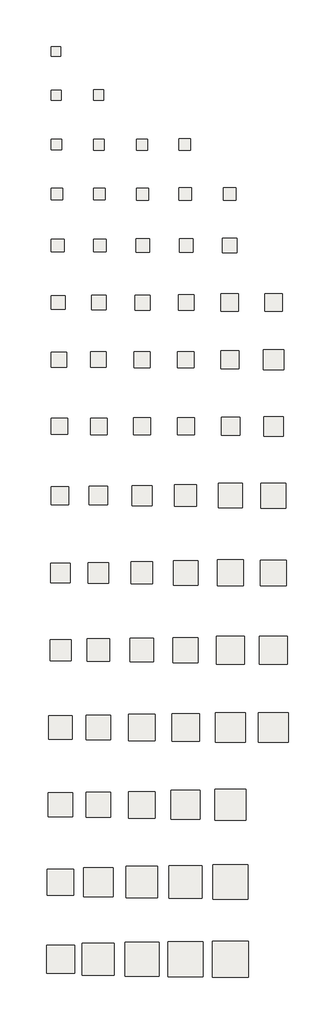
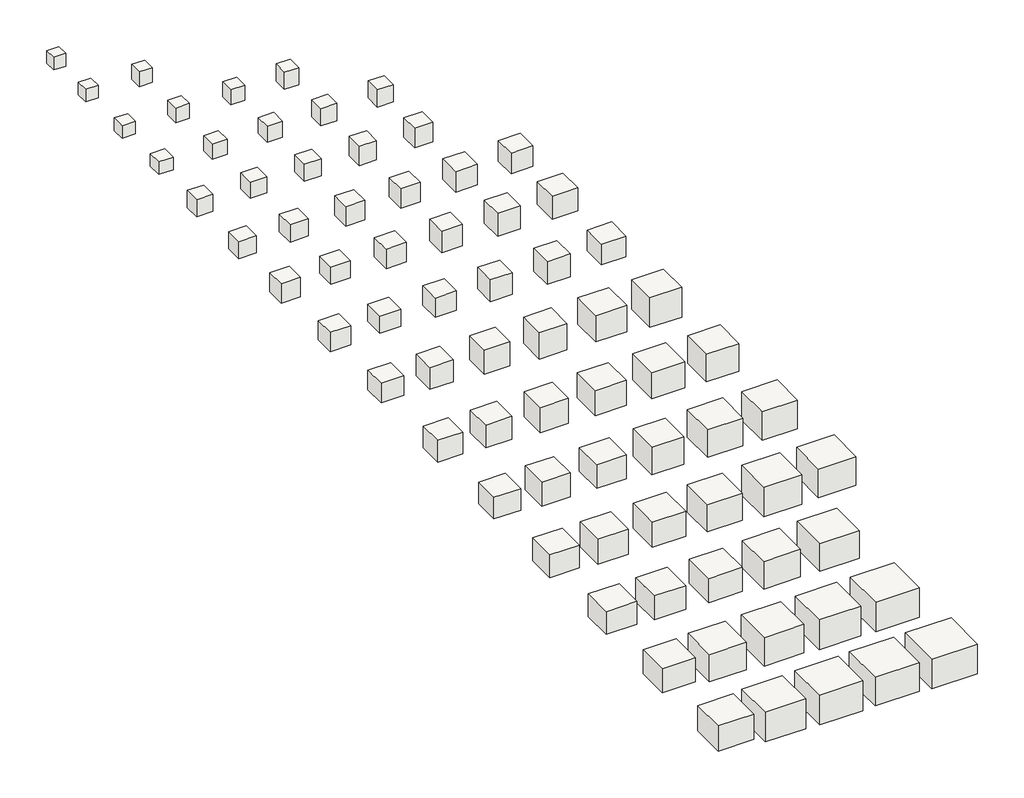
# One storey: 74 slabs.
"""IFC4 building model written with IfcOpenShell, lengths in millimetres."""

import ifcopenshell
import ifcopenshell.guid

model = None  # the IFC model being written
_history = None  # IfcOwnerHistory: only IFC2X3 demands one
_inside = {}  # id of a spatial element -> (the spatial element, [elements in it])
_under = {}  # id of a project, library or spatial element -> (it, [spatial elements below it])
_declared = {}  # id of a project -> (the project, [libraries it declares])
_typed = {}  # id of a type object -> (the type object, [elements of that type])
_made_of = {}  # id of a material, layer set ... -> (it, [elements and type objects made of it])


def new_model(schema):
    """Start an empty IFC model of exactly this schema.

    Asked for "IFC4X3", IfcOpenShell would pick the latest addendum, in which some entities
    have other attributes; the version numbers below select the first issue.
    IFC2X3 requires an IfcOwnerHistory on every rooted entity: one is made here for all.
    """
    global model, _history
    if schema == "IFC4X3":
        model = ifcopenshell.file(schema_version=(4, 3, 0, 0))
    else:
        model = ifcopenshell.file(schema=schema)
    _inside.clear()
    _under.clear()
    _declared.clear()
    _typed.clear()
    _made_of.clear()
    _history = None
    if model.schema == "IFC2X3":
        org = make("IfcOrganization", Name="unknown")
        user = make(
            "IfcPersonAndOrganization",
            ThePerson=make("IfcPerson", FamilyName="unknown"),
            TheOrganization=org,
        )
        app = make(
            "IfcApplication",
            ApplicationDeveloper=org,
            Version="unknown",
            ApplicationFullName="unknown",
            ApplicationIdentifier="unknown",
        )
        _history = make(
            "IfcOwnerHistory",
            OwningUser=user,
            OwningApplication=app,
            ChangeAction="ADDED",
            CreationDate=0,
        )
    return model


def make(cls, **values):
    """One entity of the class cls with the attributes given. An attribute that is None is left unset."""
    return model.create_entity(
        cls, **{name: value for name, value in values.items() if value is not None}
    )


def rooted(cls, **values):
    """An entity with a GlobalId (a new one), such as an element, a storey or a relation."""
    return make(cls, GlobalId=ifcopenshell.guid.new(), OwnerHistory=_history, **values)


def si_unit(unit_type, name, prefix=None):
    """IfcSIUnit, for example si_unit("LENGTHUNIT", "METRE", prefix="MILLI")."""
    return make("IfcSIUnit", UnitType=unit_type, Prefix=prefix, Name=name)


def assignment(units):
    """IfcUnitAssignment: the units of a project."""
    return None if units is None else make("IfcUnitAssignment", Units=units)


def point(xyz):
    """IfcCartesianPoint."""
    return None if xyz is None else make("IfcCartesianPoint", Coordinates=xyz)


def direction(xyz):
    """IfcDirection."""
    return None if xyz is None else make("IfcDirection", DirectionRatios=xyz)


def frame(location, z_axis=None, x_axis=None):
    """IfcAxis2Placement3D, a coordinate frame: its origin and axes. An axis left out is left unset."""
    return make(
        "IfcAxis2Placement3D",
        Location=point(location),
        Axis=direction(z_axis),
        RefDirection=direction(x_axis),
    )


def origin():
    """The frame at (0, 0, 0) with its axes left unset."""
    return frame((0.0, 0.0, 0.0))


def place(relative_to, where):
    """IfcLocalPlacement: puts the frame where relative to a parent placement (None: the world)."""
    return make(
        "IfcLocalPlacement", PlacementRelTo=relative_to, RelativePlacement=where
    )


def context(
    kind, dimensions, precision=None, world=None, true_north=None, identifier=None
):
    """IfcGeometricRepresentationContext, for example the 3D "Model" context."""
    return make(
        "IfcGeometricRepresentationContext",
        ContextIdentifier=identifier,
        ContextType=kind,
        CoordinateSpaceDimension=dimensions,
        Precision=precision,
        WorldCoordinateSystem=world,
        TrueNorth=true_north,
    )


def project(units=None, contexts=None):
    """IfcProject with its units and contexts."""
    return rooted(
        "IfcProject",
        Name="project",
        RepresentationContexts=contexts,
        UnitsInContext=assignment(units),
    )


def spatial(cls, under=None, at=None, **own):
    """A site, building, storey or space (cls), placed at a placement, below another one or the project."""
    s = rooted(cls, ObjectPlacement=at, **own)
    if under is not None:
        _under.setdefault(under.id(), (under, []))[1].append(s)
    return s


def polyline(points):
    """IfcPolyline through the points."""
    return make("IfcPolyline", Points=[point(p) for p in points])


def outline(outer, holes=None, kind="AREA"):
    """IfcArbitraryClosedProfileDef: a profile drawn as a closed curve; with holes, ...WithVoids."""
    if holes is None:
        return make("IfcArbitraryClosedProfileDef", ProfileType=kind, OuterCurve=outer)
    return make(
        "IfcArbitraryProfileDefWithVoids",
        ProfileType=kind,
        OuterCurve=outer,
        InnerCurves=holes,
    )


def extrude(swept, where, along, depth):
    """IfcExtrudedAreaSolid: the profile swept, set in the frame where, extruded along a direction by depth."""
    return make(
        "IfcExtrudedAreaSolid",
        SweptArea=swept,
        Position=where,
        ExtrudedDirection=direction(along),
        Depth=depth,
    )


def shape(context_of_items, identifier, shape_type, items):
    """IfcShapeRepresentation: the items that make up one representation, for example the "Body"."""
    return make(
        "IfcShapeRepresentation",
        ContextOfItems=context_of_items,
        RepresentationIdentifier=identifier,
        RepresentationType=shape_type,
        Items=items,
    )


def source(mapping_origin, context_of_items, identifier, shape_type, items):
    """IfcRepresentationMap: a shape defined once, which mapped items show again and again."""
    return make(
        "IfcRepresentationMap",
        MappingOrigin=mapping_origin,
        MappedRepresentation=shape(context_of_items, identifier, shape_type, items),
    )


def transform(
    local_origin,
    x_axis=None,
    y_axis=None,
    z_axis=None,
    scale=None,
    scale2=None,
    scale3=None,
    uniform=True,
):
    """IfcCartesianTransformationOperator3D, or its non-uniform kind. x_axis, y_axis, z_axis: its Axis1, 2, 3."""
    if uniform:
        return make(
            "IfcCartesianTransformationOperator3D",
            Axis1=direction(x_axis),
            Axis2=direction(y_axis),
            LocalOrigin=point(local_origin),
            Scale=scale,
            Axis3=direction(z_axis),
        )
    return make(
        "IfcCartesianTransformationOperator3DnonUniform",
        Axis1=direction(x_axis),
        Axis2=direction(y_axis),
        LocalOrigin=point(local_origin),
        Scale=scale,
        Axis3=direction(z_axis),
        Scale2=scale2,
        Scale3=scale3,
    )


def mapped(mapping_source, mapping_target):
    """IfcMappedItem: shows the shape of a source again, moved by a transform."""
    return make(
        "IfcMappedItem", MappingSource=mapping_source, MappingTarget=mapping_target
    )


def made_of(thing, what):
    """Note that an element or type object is made of a material, layer set ...; save() writes the relation."""
    if what is not None:
        _made_of.setdefault(what.id(), (what, []))[1].append(thing)
    return thing


def element(
    cls,
    number,
    at=None,
    inside=None,
    cuts=None,
    type_object=None,
    material=None,
    context=None,
    identifier="Body",
    shape_type=None,
    held_by="IfcProductDefinitionShape",
    body=None,
    shapes=None,
    **own,
):
    """One element of the class cls, such as IfcWall. Its Tag is "e" and its number.

    at: its placement. inside: the storey or other place that contains it. cuts: it is an
    opening in that element (IfcRelVoidsElement). A single representation is given by context,
    identifier, shape_type and body (its items); several are given by shapes. held_by: the class
    of the entity that holds the representations. save() writes the other relations.
    """
    e = rooted(cls, Tag="e%d" % number, ObjectPlacement=at, **own)
    if body is not None:
        shapes = [shape(context, identifier, shape_type, body)]
    if shapes is not None:
        e.Representation = make(held_by, Representations=shapes)
    if inside is not None:
        _inside.setdefault(inside.id(), (inside, []))[1].append(e)
    if cuts is not None:
        rooted(
            "IfcRelVoidsElement", RelatingBuildingElement=cuts, RelatedOpeningElement=e
        )
    if type_object is not None:
        _typed.setdefault(type_object.id(), (type_object, []))[1].append(e)
    return made_of(e, material)


def aggregate(whole, parts):
    """IfcRelAggregates: a whole, such as a stair, and the parts it consists of."""
    return rooted("IfcRelAggregates", RelatingObject=whole, RelatedObjects=parts)


def save(model, path):
    """Write the relations noted so far, then the file.

    IfcRelAggregates (storeys below a building ...), IfcRelContainedInSpatialStructure (elements
    in a storey), IfcRelDefinesByType, IfcRelAssociatesMaterial and IfcRelDeclares: one each for
    every whole, place, type object, material and project.
    """
    for whole, parts in _under.values():
        aggregate(whole, parts)
    for where, things in _inside.values():
        rooted(
            "IfcRelContainedInSpatialStructure",
            RelatedElements=things,
            RelatingStructure=where,
        )
    for kind, things in _typed.values():
        rooted("IfcRelDefinesByType", RelatedObjects=things, RelatingType=kind)
    for what, things in _made_of.values():
        rooted("IfcRelAssociatesMaterial", RelatedObjects=things, RelatingMaterial=what)
    for by, libraries in _declared.values():
        rooted("IfcRelDeclares", RelatingContext=by, RelatedDefinitions=libraries)
    model.write(path)


def sh151_05a4cf6c(model_context):
    return source(origin(), model_context, "Body", "SweptSolid", [
        extrude(outline(polyline([(250.0, 250.0), (250.0, -250.0), (-250.0, -250.0), (-250.0, 250.0), (250.0, 250.0)])), frame((0.0, 0.0, -550.0), z_axis=(0.0, 0.0, 1.0), x_axis=(1.0, 0.0, 0.0)), (0.0, 0.0, 1.0), 550.0),
    ])


def sh171_3b6ec63e(model_context):
    return source(origin(), model_context, "Body", "SweptSolid", [
        extrude(outline(polyline([(260.0, 260.0), (260.0, -260.0), (-260.0, -260.0), (-260.0, 260.0), (260.0, 260.0)])), frame((0.0, 0.0, -550.0), z_axis=(0.0, 0.0, 1.0), x_axis=(1.0, 0.0, 0.0)), (0.0, 0.0, 1.0), 550.0),
    ])


def sh172_2c039d42(model_context):
    return source(origin(), model_context, "Body", "SweptSolid", [
        extrude(outline(polyline([(270.0, 270.0), (270.0, -270.0), (-270.0, -270.0), (-270.0, 270.0), (270.0, 270.0)])), frame((0.0, 0.0, -650.0), z_axis=(0.0, 0.0, 1.0), x_axis=(1.0, 0.0, 0.0)), (0.0, 0.0, 1.0), 650.0),
    ])


def sh201_967e3658(model_context):
    return source(origin(), model_context, "Body", "SweptSolid", [
        extrude(outline(polyline([(275.0, 275.0), (275.0, -275.0), (-275.0, -275.0), (-275.0, 275.0), (275.0, 275.0)])), frame((0.0, 0.0, -550.0), z_axis=(0.0, 0.0, 1.0), x_axis=(1.0, 0.0, 0.0)), (0.0, 0.0, 1.0), 550.0),
    ])


def sh202_af07e2a0(model_context):
    return source(origin(), model_context, "Body", "SweptSolid", [
        extrude(outline(polyline([(285.0, 285.0), (285.0, -285.0), (-285.0, -285.0), (-285.0, 285.0), (285.0, 285.0)])), frame((0.0, 0.0, -650.0), z_axis=(0.0, 0.0, 1.0), x_axis=(1.0, 0.0, 0.0)), (0.0, 0.0, 1.0), 650.0),
    ])


def sh203_214d91b7(model_context):
    return source(origin(), model_context, "Body", "SweptSolid", [
        extrude(outline(polyline([(290.0, 290.0), (290.0, -290.0), (-290.0, -290.0), (-290.0, 290.0), (290.0, 290.0)])), frame((0.0, 0.0, -650.0), z_axis=(0.0, 0.0, 1.0), x_axis=(1.0, 0.0, 0.0)), (0.0, 0.0, 1.0), 650.0),
    ])


def sh204_f7182780(model_context):
    return source(origin(), model_context, "Body", "SweptSolid", [
        extrude(outline(polyline([(300.0, 300.0), (300.0, -300.0), (-300.0, -300.0), (-300.0, 300.0), (300.0, 300.0)])), frame((0.0, 0.0, -750.0), z_axis=(0.0, 0.0, 1.0), x_axis=(1.0, 0.0, 0.0)), (0.0, 0.0, 1.0), 750.0),
    ])


def sh251_bfb0af9b(model_context):
    return source(origin(), model_context, "Body", "SweptSolid", [
        extrude(outline(polyline([(300.0, 300.0), (300.0, -300.0), (-300.0, -300.0), (-300.0, 300.0), (300.0, 300.0)])), frame((0.0, 0.0, -550.0), z_axis=(0.0, 0.0, 1.0), x_axis=(1.0, 0.0, 0.0)), (0.0, 0.0, 1.0), 550.0),
    ])


def sh252_e3db69f3(model_context):
    return source(origin(), model_context, "Body", "SweptSolid", [
        extrude(outline(polyline([(310.0, 310.0), (310.0, -310.0), (-310.0, -310.0), (-310.0, 310.0), (310.0, 310.0)])), frame((0.0, 0.0, -650.0), z_axis=(0.0, 0.0, 1.0), x_axis=(1.0, 0.0, 0.0)), (0.0, 0.0, 1.0), 650.0),
    ])


def sh253_e0c43a48(model_context):
    return source(origin(), model_context, "Body", "SweptSolid", [
        extrude(outline(polyline([(315.0, 315.0), (315.0, -315.0), (-315.0, -315.0), (-315.0, 315.0), (315.0, 315.0)])), frame((0.0, 0.0, -700.0), z_axis=(0.0, 0.0, 1.0), x_axis=(1.0, 0.0, 0.0)), (0.0, 0.0, 1.0), 700.0),
    ])


def sh254_d4b0e25d(model_context):
    return source(origin(), model_context, "Body", "SweptSolid", [
        extrude(outline(polyline([(325.0, 325.0), (325.0, -325.0), (-325.0, -325.0), (-325.0, 325.0), (325.0, 325.0)])), frame((0.0, 0.0, -750.0), z_axis=(0.0, 0.0, 1.0), x_axis=(1.0, 0.0, 0.0)), (0.0, 0.0, 1.0), 750.0),
    ])


def sh255_3842edd7(model_context):
    return source(origin(), model_context, "Body", "SweptSolid", [
        extrude(outline(polyline([(330.0, 330.0), (330.0, -330.0), (-330.0, -330.0), (-330.0, 330.0), (330.0, 330.0)])), frame((0.0, 0.0, -750.0), z_axis=(0.0, 0.0, 1.0), x_axis=(1.0, 0.0, 0.0)), (0.0, 0.0, 1.0), 750.0),
    ])


def sh301_2fa1b9bb(model_context):
    return source(origin(), model_context, "Body", "SweptSolid", [
        extrude(outline(polyline([(335.0, 335.0), (335.0, -335.0), (-335.0, -335.0), (-335.0, 335.0), (335.0, 335.0)])), frame((0.0, 0.0, -750.0), z_axis=(0.0, 0.0, 1.0), x_axis=(1.0, 0.0, 0.0)), (0.0, 0.0, 1.0), 750.0),
    ])


def sh302_2cdbd7e4(model_context):
    return source(origin(), model_context, "Body", "SweptSolid", [
        extrude(outline(polyline([(340.0, 340.0), (340.0, -340.0), (-340.0, -340.0), (-340.0, 340.0), (340.0, 340.0)])), frame((0.0, 0.0, -700.0), z_axis=(0.0, 0.0, 1.0), x_axis=(1.0, 0.0, 0.0)), (0.0, 0.0, 1.0), 700.0),
    ])


def sh303_fd9c4a22(model_context):
    return source(origin(), model_context, "Body", "SweptSolid", [
        extrude(outline(polyline([(350.0, 350.0), (350.0, -350.0), (-350.0, -350.0), (-350.0, 350.0), (350.0, 350.0)])), frame((0.0, 0.0, -750.0), z_axis=(0.0, 0.0, 1.0), x_axis=(1.0, 0.0, 0.0)), (0.0, 0.0, 1.0), 750.0),
    ])


def sh304_efbd32dc(model_context):
    return source(origin(), model_context, "Body", "SweptSolid", [
        extrude(outline(polyline([(355.0, 355.0), (355.0, -355.0), (-355.0, -355.0), (-355.0, 355.0), (355.0, 355.0)])), frame((0.0, 0.0, -850.0), z_axis=(0.0, 0.0, 1.0), x_axis=(1.0, 0.0, 0.0)), (0.0, 0.0, 1.0), 850.0),
    ])


def sh305_3eef8231(model_context):
    return source(origin(), model_context, "Body", "SweptSolid", [
        extrude(outline(polyline([(380.0, 380.0), (380.0, -380.0), (-380.0, -380.0), (-380.0, 380.0), (380.0, 380.0)])), frame((0.0, 0.0, -850.0), z_axis=(0.0, 0.0, 1.0), x_axis=(1.0, 0.0, 0.0)), (0.0, 0.0, 1.0), 850.0),
    ])


def sh351_a3a2fe4a(model_context):
    return source(origin(), model_context, "Body", "SweptSolid", [
        extrude(outline(polyline([(360.0, 360.0), (360.0, -360.0), (-360.0, -360.0), (-360.0, 360.0), (360.0, 360.0)])), frame((0.0, 0.0, -750.0), z_axis=(0.0, 0.0, 1.0), x_axis=(1.0, 0.0, 0.0)), (0.0, 0.0, 1.0), 750.0),
    ])


def sh352_ad2891c9(model_context):
    return source(origin(), model_context, "Body", "SweptSolid", [
        extrude(outline(polyline([(380.0, 380.0), (380.0, -380.0), (-380.0, -380.0), (-380.0, 380.0), (380.0, 380.0)])), frame((0.0, 0.0, -750.0), z_axis=(0.0, 0.0, 1.0), x_axis=(1.0, 0.0, 0.0)), (0.0, 0.0, 1.0), 750.0),
    ])


def sh353_d71c6902(model_context):
    return source(origin(), model_context, "Body", "SweptSolid", [
        extrude(outline(polyline([(390.0, 390.0), (390.0, -390.0), (-390.0, -390.0), (-390.0, 390.0), (390.0, 390.0)])), frame((0.0, 0.0, -850.0), z_axis=(0.0, 0.0, 1.0), x_axis=(1.0, 0.0, 0.0)), (0.0, 0.0, 1.0), 850.0),
    ])


def sh354_d327f54e(model_context):
    return source(origin(), model_context, "Body", "SweptSolid", [
        extrude(outline(polyline([(405.0, 405.0), (405.0, -405.0), (-405.0, -405.0), (-405.0, 405.0), (405.0, 405.0)])), frame((0.0, 0.0, -850.0), z_axis=(0.0, 0.0, 1.0), x_axis=(1.0, 0.0, 0.0)), (0.0, 0.0, 1.0), 850.0),
    ])


def sh355_837e37f4(model_context):
    return source(origin(), model_context, "Body", "SweptSolid", [
        extrude(outline(polyline([(455.0, 455.0), (455.0, -455.0), (-455.0, -455.0), (-455.0, 455.0), (455.0, 455.0)])), frame((0.0, 0.0, -900.0), z_axis=(0.0, 0.0, 1.0), x_axis=(1.0, 0.0, 0.0)), (0.0, 0.0, 1.0), 900.0),
    ])


def sh402_118434c7(model_context):
    return source(origin(), model_context, "Body", "SweptSolid", [
        extrude(outline(polyline([(405.0, 405.0), (405.0, -405.0), (-405.0, -405.0), (-405.0, 405.0), (405.0, 405.0)])), frame((0.0, 0.0, -750.0), z_axis=(0.0, 0.0, 1.0), x_axis=(1.0, 0.0, 0.0)), (0.0, 0.0, 1.0), 750.0),
    ])


def sh403_8080ce22(model_context):
    return source(origin(), model_context, "Body", "SweptSolid", [
        extrude(outline(polyline([(420.0, 420.0), (420.0, -420.0), (-420.0, -420.0), (-420.0, 420.0), (420.0, 420.0)])), frame((0.0, 0.0, -850.0), z_axis=(0.0, 0.0, 1.0), x_axis=(1.0, 0.0, 0.0)), (0.0, 0.0, 1.0), 850.0),
    ])


def sh404_aaa08fc3(model_context):
    return source(origin(), model_context, "Body", "SweptSolid", [
        extrude(outline(polyline([(430.0, 430.0), (430.0, -430.0), (-430.0, -430.0), (-430.0, 430.0), (430.0, 430.0)])), frame((0.0, 0.0, -950.0), z_axis=(0.0, 0.0, 1.0), x_axis=(1.0, 0.0, 0.0)), (0.0, 0.0, 1.0), 950.0),
    ])


def sh451_d6b55bf2(model_context):
    return source(origin(), model_context, "Body", "SweptSolid", [
        extrude(outline(polyline([(425.0, 425.0), (425.0, -425.0), (-425.0, -425.0), (-425.0, 425.0), (425.0, 425.0)])), frame((0.0, 0.0, -850.0), z_axis=(0.0, 0.0, 1.0), x_axis=(1.0, 0.0, 0.0)), (0.0, 0.0, 1.0), 850.0),
    ])


def sh452_b81ecc12(model_context):
    return source(origin(), model_context, "Body", "SweptSolid", [
        extrude(outline(polyline([(435.0, 435.0), (435.0, -435.0), (-435.0, -435.0), (-435.0, 435.0), (435.0, 435.0)])), frame((0.0, 0.0, -750.0), z_axis=(0.0, 0.0, 1.0), x_axis=(1.0, 0.0, 0.0)), (0.0, 0.0, 1.0), 750.0),
    ])


def sh453_2a0722a9(model_context):
    return source(origin(), model_context, "Body", "SweptSolid", [
        extrude(outline(polyline([(445.0, 445.0), (445.0, -445.0), (-445.0, -445.0), (-445.0, 445.0), (445.0, 445.0)])), frame((0.0, 0.0, -850.0), z_axis=(0.0, 0.0, 1.0), x_axis=(1.0, 0.0, 0.0)), (0.0, 0.0, 1.0), 850.0),
    ])


def sh454_7828ca22(model_context):
    return source(origin(), model_context, "Body", "SweptSolid", [
        extrude(outline(polyline([(455.0, 455.0), (455.0, -455.0), (-455.0, -455.0), (-455.0, 455.0), (455.0, 455.0)])), frame((0.0, 0.0, -950.0), z_axis=(0.0, 0.0, 1.0), x_axis=(1.0, 0.0, 0.0)), (0.0, 0.0, 1.0), 950.0),
    ])


def sh455_6269cbd8(model_context):
    return source(origin(), model_context, "Body", "SweptSolid", [
        extrude(outline(polyline([(480.0, 480.0), (480.0, -480.0), (-480.0, -480.0), (-480.0, 480.0), (480.0, 480.0)])), frame((0.0, 0.0, -1000.0), z_axis=(0.0, 0.0, 1.0), x_axis=(1.0, 0.0, 0.0)), (0.0, 0.0, 1.0), 1000.0),
    ])


def sh456_0ef26143(model_context):
    return source(origin(), model_context, "Body", "SweptSolid", [
        extrude(outline(polyline([(510.0, 510.0), (510.0, -510.0), (-510.0, -510.0), (-510.0, 510.0), (510.0, 510.0)])), frame((0.0, 0.0, -900.0), z_axis=(0.0, 0.0, 1.0), x_axis=(1.0, 0.0, 0.0)), (0.0, 0.0, 1.0), 900.0),
    ])


def sh551_472f291d(model_context):
    return source(origin(), model_context, "Body", "SweptSolid", [
        extrude(outline(polyline([(520.0, 520.0), (520.0, -520.0), (-520.0, -520.0), (-520.0, 520.0), (520.0, 520.0)])), frame((0.0, 0.0, -950.0), z_axis=(0.0, 0.0, 1.0), x_axis=(1.0, 0.0, 0.0)), (0.0, 0.0, 1.0), 950.0),
    ])


def sh601_b4ec754e(model_context):
    return source(origin(), model_context, "Body", "SweptSolid", [
        extrude(outline(polyline([(550.0, 550.0), (550.0, -550.0), (-550.0, -550.0), (-550.0, 550.0), (550.0, 550.0)])), frame((0.0, 0.0, -950.0), z_axis=(0.0, 0.0, 1.0), x_axis=(1.0, 0.0, 0.0)), (0.0, 0.0, 1.0), 950.0),
    ])


def sh651_6f82ec02(model_context):
    return source(origin(), model_context, "Body", "SweptSolid", [
        extrude(outline(polyline([(610.0, 610.0), (610.0, -610.0), (-610.0, -610.0), (-610.0, 610.0), (610.0, 610.0)])), frame((0.0, 0.0, -1000.0), z_axis=(0.0, 0.0, 1.0), x_axis=(1.0, 0.0, 0.0)), (0.0, 0.0, 1.0), 1000.0),
    ])


def sh701_66dc8db6(model_context):
    return source(origin(), model_context, "Body", "SweptSolid", [
        extrude(outline(polyline([(640.0, 640.0), (640.0, -640.0), (-640.0, -640.0), (-640.0, 640.0), (640.0, 640.0)])), frame((0.0, 0.0, -1000.0), z_axis=(0.0, 0.0, 1.0), x_axis=(1.0, 0.0, 0.0)), (0.0, 0.0, 1.0), 1000.0),
    ])


def sh751_26a283a2(model_context):
    return source(origin(), model_context, "Body", "SweptSolid", [
        extrude(outline(polyline([(685.0, 685.0), (685.0, -685.0), (-685.0, -685.0), (-685.0, 685.0), (685.0, 685.0)])), frame((0.0, 0.0, -1050.0), z_axis=(0.0, 0.0, 1.0), x_axis=(1.0, 0.0, 0.0)), (0.0, 0.0, 1.0), 1050.0),
    ])


def sh801_a61c9dea(model_context):
    return source(origin(), model_context, "Body", "SweptSolid", [
        extrude(outline(polyline([(735.0, 735.0), (735.0, -735.0), (-735.0, -735.0), (-735.0, 735.0), (735.0, 735.0)])), frame((0.0, 0.0, -1100.0), z_axis=(0.0, 0.0, 1.0), x_axis=(1.0, 0.0, 0.0)), (0.0, 0.0, 1.0), 1100.0),
    ])


model = new_model("IFC4")

# Units and contexts
model_context = context("Model", 3, world=origin())
ifc_project = project(units=[si_unit("LENGTHUNIT", "METRE", prefix="MILLI")], contexts=[model_context])

# Site, building, storey
site = spatial("IfcSite", under=ifc_project)
building = spatial("IfcBuilding", under=site)
storey = spatial("IfcBuildingStorey", under=building, Name="レベル 1", Elevation=0.0)

# Slabs
placement = place(None, origin())
sh151_shape = sh151_05a4cf6c(model_context)
element("IfcSlab", 1, ObjectType="柱形_SH : SH151", at=placement, inside=storey, context=model_context, shape_type="MappedRepresentation", body=[
    mapped(sh151_shape, transform((-18374.1210172, 22289.5887732, 0.0), x_axis=(1.0, 0.0, 0.0), y_axis=(0.0, 1.0, 0.0), z_axis=(0.0, 0.0, 1.0))),
])
sh171_shape = sh171_3b6ec63e(model_context)
element("IfcSlab", 2, ObjectType="柱形_SH : SH171", at=placement, inside=storey, context=model_context, shape_type="MappedRepresentation", body=[
    mapped(sh171_shape, transform((-18364.1210172, 19989.5887732, 0.0), x_axis=(1.0, 0.0, 0.0), y_axis=(0.0, 1.0, 0.0), z_axis=(0.0, 0.0, 1.0))),
])
sh172_shape = sh172_2c039d42(model_context)
element("IfcSlab", 3, ObjectType="柱形_SH : SH172", at=placement, inside=storey, context=model_context, shape_type="MappedRepresentation", body=[
    mapped(sh172_shape, transform((-16140.7168251, 19989.5887732, 0.0), x_axis=(1.0, 0.0, 0.0), y_axis=(0.0, 1.0, 0.0), z_axis=(0.0, 0.0, 1.0))),
])
sh201_shape = sh201_967e3658(model_context)
element("IfcSlab", 4, ObjectType="柱形_SH : SH201", at=placement, inside=storey, context=model_context, shape_type="MappedRepresentation", body=[
    mapped(sh201_shape, transform((-18349.1210172, 17389.5887732, 0.0), x_axis=(1.0, 0.0, 0.0), y_axis=(0.0, 1.0, 0.0), z_axis=(0.0, 0.0, 1.0))),
])
sh202_shape = sh202_af07e2a0(model_context)
element("IfcSlab", 5, ObjectType="柱形_SH : SH202", at=placement, inside=storey, context=model_context, shape_type="MappedRepresentation", body=[
    mapped(sh202_shape, transform((-16125.7168251, 17389.5887732, 0.0), x_axis=(1.0, 0.0, 0.0), y_axis=(0.0, 1.0, 0.0), z_axis=(0.0, 0.0, 1.0))),
])
sh203_shape = sh203_214d91b7(model_context)
element("IfcSlab", 6, ObjectType="柱形_SH : SH203", at=placement, inside=storey, context=model_context, shape_type="MappedRepresentation", body=[
    mapped(sh203_shape, transform((-13842.3126329, 17389.5887732, 0.0), x_axis=(1.0, 0.0, 0.0), y_axis=(0.0, 1.0, 0.0), z_axis=(0.0, 0.0, 1.0))),
])
sh204_shape = sh204_f7182780(model_context)
element("IfcSlab", 7, ObjectType="柱形_SH : SH204", at=placement, inside=storey, context=model_context, shape_type="MappedRepresentation", body=[
    mapped(sh204_shape, transform((-11608.9084407, 17389.5887732, 0.0), x_axis=(1.0, 0.0, 0.0), y_axis=(0.0, 1.0, 0.0), z_axis=(0.0, 0.0, 1.0))),
])
sh251_shape = sh251_bfb0af9b(model_context)
element("IfcSlab", 8, ObjectType="柱形_SH : SH251", at=placement, inside=storey, context=model_context, shape_type="MappedRepresentation", body=[
    mapped(sh251_shape, transform((-18324.1210172, 14789.5887732, 0.0), x_axis=(1.0, 0.0, 0.0), y_axis=(0.0, 1.0, 0.0), z_axis=(0.0, 0.0, 1.0))),
])
sh252_shape = sh252_e3db69f3(model_context)
element("IfcSlab", 9, ObjectType="柱形_SH : SH252", at=placement, inside=storey, context=model_context, shape_type="MappedRepresentation", body=[
    mapped(sh252_shape, transform((-16100.7168251, 14789.5887732, 0.0), x_axis=(1.0, 0.0, 0.0), y_axis=(0.0, 1.0, 0.0), z_axis=(0.0, 0.0, 1.0))),
])
sh253_shape = sh253_e0c43a48(model_context)
element("IfcSlab", 10, ObjectType="柱形_SH : SH253", at=placement, inside=storey, context=model_context, shape_type="MappedRepresentation", body=[
    mapped(sh253_shape, transform((-13817.3126329, 14789.5887732, 0.0), x_axis=(1.0, 0.0, 0.0), y_axis=(0.0, 1.0, 0.0), z_axis=(0.0, 0.0, 1.0))),
])
sh254_shape = sh254_d4b0e25d(model_context)
element("IfcSlab", 11, ObjectType="柱形_SH : SH254", at=placement, inside=storey, context=model_context, shape_type="MappedRepresentation", body=[
    mapped(sh254_shape, transform((-11583.9084407, 14789.5887732, 0.0), x_axis=(1.0, 0.0, 0.0), y_axis=(0.0, 1.0, 0.0), z_axis=(0.0, 0.0, 1.0))),
])
sh255_shape = sh255_3842edd7(model_context)
element("IfcSlab", 12, ObjectType="柱形_SH : SH255", at=placement, inside=storey, context=model_context, shape_type="MappedRepresentation", body=[
    mapped(sh255_shape, transform((-9240.5042486, 14789.5887732, 0.0), x_axis=(1.0, 0.0, 0.0), y_axis=(0.0, 1.0, 0.0), z_axis=(0.0, 0.0, 1.0))),
])
sh301_shape = sh301_2fa1b9bb(model_context)
element("IfcSlab", 13, ObjectType="柱形_SH : SH301", at=placement, inside=storey, context=model_context, shape_type="MappedRepresentation", body=[
    mapped(sh301_shape, transform((-18289.1210172, 12089.5887732, 0.0), x_axis=(1.0, 0.0, 0.0), y_axis=(0.0, 1.0, 0.0), z_axis=(0.0, 0.0, 1.0))),
])
sh302_shape = sh302_2cdbd7e4(model_context)
element("IfcSlab", 14, ObjectType="柱形_SH : SH302", at=placement, inside=storey, context=model_context, shape_type="MappedRepresentation", body=[
    mapped(sh302_shape, transform((-16070.7168251, 12089.5887732, 0.0), x_axis=(1.0, 0.0, 0.0), y_axis=(0.0, 1.0, 0.0), z_axis=(0.0, 0.0, 1.0))),
])
sh303_shape = sh303_fd9c4a22(model_context)
element("IfcSlab", 15, ObjectType="柱形_SH : SH303", at=placement, inside=storey, context=model_context, shape_type="MappedRepresentation", body=[
    mapped(sh303_shape, transform((-13817.3126329, 12089.5887732, 0.0), x_axis=(1.0, 0.0, 0.0), y_axis=(0.0, 1.0, 0.0), z_axis=(0.0, 0.0, 1.0))),
])
sh304_shape = sh304_efbd32dc(model_context)
element("IfcSlab", 16, ObjectType="柱形_SH : SH304", at=placement, inside=storey, context=model_context, shape_type="MappedRepresentation", body=[
    mapped(sh304_shape, transform((-11536.4084407, 12089.5887732, 0.0), x_axis=(1.0, 0.0, 0.0), y_axis=(0.0, 1.0, 0.0), z_axis=(0.0, 0.0, 1.0))),
])
sh305_shape = sh305_3eef8231(model_context)
element("IfcSlab", 17, ObjectType="柱形_SH : SH305", at=placement, inside=storey, context=model_context, shape_type="MappedRepresentation", body=[
    mapped(sh305_shape, transform((-9236.4084407, 12089.5887732, 0.0), x_axis=(1.0, 0.0, 0.0), y_axis=(0.0, 1.0, 0.0), z_axis=(0.0, 0.0, 1.0))),
])
sh351_shape = sh351_a3a2fe4a(model_context)
element("IfcSlab", 18, ObjectType="柱形_SH : SH351", at=placement, inside=storey, context=model_context, shape_type="MappedRepresentation", body=[
    mapped(sh351_shape, transform((-18264.1210172, 9089.5887732, 0.0), x_axis=(1.0, 0.0, 0.0), y_axis=(0.0, 1.0, 0.0), z_axis=(0.0, 0.0, 1.0))),
])
sh352_shape = sh352_ad2891c9(model_context)
element("IfcSlab", 19, ObjectType="柱形_SH : SH352", at=placement, inside=storey, context=model_context, shape_type="MappedRepresentation", body=[
    mapped(sh352_shape, transform((-16130.7168251, 9089.5887732, 0.0), x_axis=(1.0, 0.0, 0.0), y_axis=(0.0, 1.0, 0.0), z_axis=(0.0, 0.0, 1.0))),
])
sh353_shape = sh353_d71c6902(model_context)
element("IfcSlab", 20, ObjectType="柱形_SH : SH353", at=placement, inside=storey, context=model_context, shape_type="MappedRepresentation", body=[
    mapped(sh353_shape, transform((-13817.3126329, 9089.5887732, 0.0), x_axis=(1.0, 0.0, 0.0), y_axis=(0.0, 1.0, 0.0), z_axis=(0.0, 0.0, 1.0))),
])
sh354_shape = sh354_d327f54e(model_context)
element("IfcSlab", 21, ObjectType="柱形_SH : SH354", at=placement, inside=storey, context=model_context, shape_type="MappedRepresentation", body=[
    mapped(sh354_shape, transform((-11536.4084407, 9089.5887732, 0.0), x_axis=(1.0, 0.0, 0.0), y_axis=(0.0, 1.0, 0.0), z_axis=(0.0, 0.0, 1.0))),
])
sh355_shape = sh355_837e37f4(model_context)
element("IfcSlab", 22, ObjectType="柱形_SH : SH355", at=placement, inside=storey, context=model_context, shape_type="MappedRepresentation", body=[
    mapped(sh355_shape, transform((-9236.4084407, 9089.5887732, 0.0), x_axis=(1.0, 0.0, 0.0), y_axis=(0.0, 1.0, 0.0), z_axis=(0.0, 0.0, 1.0))),
])
element("IfcSlab", 23, ObjectType="柱形_SH : SH356", at=placement, inside=storey, context=model_context, shape_type="MappedRepresentation", body=[
    mapped(sh355_shape, transform((-6936.4084407, 9089.5887732, 0.0), x_axis=(1.0, 0.0, 0.0), y_axis=(0.0, 1.0, 0.0), z_axis=(0.0, 0.0, 1.0))),
])
element("IfcSlab", 24, ObjectType="柱形_SH : SH401", at=placement, inside=storey, context=model_context, shape_type="SweptSolid", body=[
    extrude(outline(polyline([(-17826.0106955, 6489.5887732), (-17826.0106955, 5689.5887732), (-18626.0106955, 5689.5887732), (-18626.0106955, 6489.5887732), (-17826.0106955, 6489.5887732)])), frame((0.0, 0.0, -850.0), z_axis=(0.0, 0.0, 1.0), x_axis=(1.0, 0.0, 0.0)), (0.0, 0.0, 1.0), 850.0),
])
sh402_shape = sh402_118434c7(model_context)
element("IfcSlab", 25, ObjectType="柱形_SH : SH402", at=placement, inside=storey, context=model_context, shape_type="MappedRepresentation", body=[
    mapped(sh402_shape, transform((-16159.2265438, 6089.5887732, 0.0), x_axis=(1.0, 0.0, 0.0), y_axis=(0.0, 1.0, 0.0), z_axis=(0.0, 0.0, 1.0))),
])
sh403_shape = sh403_8080ce22(model_context)
element("IfcSlab", 26, ObjectType="柱形_SH : SH403", at=placement, inside=storey, context=model_context, shape_type="MappedRepresentation", body=[
    mapped(sh403_shape, transform((-13859.2265438, 6089.5887732, 0.0), x_axis=(1.0, 0.0, 0.0), y_axis=(0.0, 1.0, 0.0), z_axis=(0.0, 0.0, 1.0))),
])
sh404_shape = sh404_aaa08fc3(model_context)
element("IfcSlab", 27, ObjectType="柱形_SH : SH404", at=placement, inside=storey, context=model_context, shape_type="MappedRepresentation", body=[
    mapped(sh404_shape, transform((-11559.2265438, 6089.5887732, 0.0), x_axis=(1.0, 0.0, 0.0), y_axis=(0.0, 1.0, 0.0), z_axis=(0.0, 0.0, 1.0))),
])
element("IfcSlab", 28, ObjectType="柱形_SH : SH405", at=placement, inside=storey, context=model_context, shape_type="SweptSolid", body=[
    extrude(outline(polyline([(-8749.2265438, 6559.5887732), (-8749.2265438, 5619.5887732), (-9689.2265438, 5619.5887732), (-9689.2265438, 6559.5887732), (-8749.2265438, 6559.5887732)])), frame((0.0, 0.0, -1000.0), z_axis=(0.0, 0.0, 1.0), x_axis=(1.0, 0.0, 0.0)), (0.0, 0.0, 1.0), 1000.0),
])
element("IfcSlab", 29, ObjectType="柱形_SH : SH406", at=placement, inside=storey, context=model_context, shape_type="SweptSolid", body=[
    extrude(outline(polyline([(-6401.2999676, 6619.5887732), (-6401.2999676, 5559.5887732), (-7461.2999676, 5559.5887732), (-7461.2999676, 6619.5887732), (-6401.2999676, 6619.5887732)])), frame((0.0, 0.0, -1000.0), z_axis=(0.0, 0.0, 1.0), x_axis=(1.0, 0.0, 0.0)), (0.0, 0.0, 1.0), 1000.0),
])
sh451_shape = sh451_d6b55bf2(model_context)
element("IfcSlab", 30, ObjectType="柱形_SH : SH451", at=placement, inside=storey, context=model_context, shape_type="MappedRepresentation", body=[
    mapped(sh451_shape, transform((-18199.1210172, 2589.5887732, 0.0), x_axis=(1.0, 0.0, 0.0), y_axis=(0.0, 1.0, 0.0), z_axis=(0.0, 0.0, 1.0))),
])
sh452_shape = sh452_b81ecc12(model_context)
element("IfcSlab", 31, ObjectType="柱形_SH : SH452", at=placement, inside=storey, context=model_context, shape_type="MappedRepresentation", body=[
    mapped(sh452_shape, transform((-16132.3368655, 2589.5887732, 0.0), x_axis=(1.0, 0.0, 0.0), y_axis=(0.0, 1.0, 0.0), z_axis=(0.0, 0.0, 1.0))),
])
sh453_shape = sh453_2a0722a9(model_context)
element("IfcSlab", 32, ObjectType="柱形_SH : SH453", at=placement, inside=storey, context=model_context, shape_type="MappedRepresentation", body=[
    mapped(sh453_shape, transform((-13844.2265438, 2589.5887732, 0.0), x_axis=(1.0, 0.0, 0.0), y_axis=(0.0, 1.0, 0.0), z_axis=(0.0, 0.0, 1.0))),
])
sh454_shape = sh454_7828ca22(model_context)
element("IfcSlab", 33, ObjectType="柱形_SH : SH454", at=placement, inside=storey, context=model_context, shape_type="MappedRepresentation", body=[
    mapped(sh454_shape, transform((-11544.2265438, 2589.5887732, 0.0), x_axis=(1.0, 0.0, 0.0), y_axis=(0.0, 1.0, 0.0), z_axis=(0.0, 0.0, 1.0))),
])
sh455_shape = sh455_6269cbd8(model_context)
element("IfcSlab", 34, ObjectType="柱形_SH : SH455", at=placement, inside=storey, context=model_context, shape_type="MappedRepresentation", body=[
    mapped(sh455_shape, transform((-9184.2265438, 2589.5887732, 0.0), x_axis=(1.0, 0.0, 0.0), y_axis=(0.0, 1.0, 0.0), z_axis=(0.0, 0.0, 1.0))),
])
sh456_shape = sh456_0ef26143(model_context)
element("IfcSlab", 35, ObjectType="柱形_SH : SH456", at=placement, inside=storey, context=model_context, shape_type="MappedRepresentation", body=[
    mapped(sh456_shape, transform((-6924.2265438, 2589.5887732, 0.0), x_axis=(1.0, 0.0, 0.0), y_axis=(0.0, 1.0, 0.0), z_axis=(0.0, 0.0, 1.0))),
])
element("IfcSlab", 36, ObjectType="柱形_SH : SH501", at=placement, inside=storey, context=model_context, shape_type="SweptSolid", body=[
    extrude(outline(polyline([(-17704.1210172, -580.4112268), (-17704.1210172, -1520.4112268), (-18644.1210172, -1520.4112268), (-18644.1210172, -580.4112268), (-17704.1210172, -580.4112268)])), frame((0.0, 0.0, -850.0), z_axis=(0.0, 0.0, 1.0), x_axis=(1.0, 0.0, 0.0)), (0.0, 0.0, 1.0), 850.0),
])
element("IfcSlab", 37, ObjectType="柱形_SH : SH502", at=placement, inside=storey, context=model_context, shape_type="SweptSolid", body=[
    extrude(outline(polyline([(-15665.8055027, -565.4112268), (-15665.8055027, -1535.4112268), (-16635.8055027, -1535.4112268), (-16635.8055027, -565.4112268), (-15665.8055027, -565.4112268)])), frame((0.0, 0.0, -950.0), z_axis=(0.0, 0.0, 1.0), x_axis=(1.0, 0.0, 0.0)), (0.0, 0.0, 1.0), 950.0),
])
element("IfcSlab", 38, ObjectType="柱形_SH : SH503", at=placement, inside=storey, context=model_context, shape_type="SweptSolid", body=[
    extrude(outline(polyline([(-13337.695181, -525.4112268), (-13337.695181, -1575.4112268), (-14387.695181, -1575.4112268), (-14387.695181, -525.4112268), (-13337.695181, -525.4112268)])), frame((0.0, 0.0, -1050.0), z_axis=(0.0, 0.0, 1.0), x_axis=(1.0, 0.0, 0.0)), (0.0, 0.0, 1.0), 1050.0),
])
element("IfcSlab", 39, ObjectType="柱形_SH : SH504", at=placement, inside=storey, context=model_context, shape_type="SweptSolid", body=[
    extrude(outline(polyline([(-10992.695181, -480.4112268), (-10992.695181, -1620.4112268), (-12132.695181, -1620.4112268), (-12132.695181, -480.4112268), (-10992.695181, -480.4112268)])), frame((0.0, 0.0, -1150.0), z_axis=(0.0, 0.0, 1.0), x_axis=(1.0, 0.0, 0.0)), (0.0, 0.0, 1.0), 1150.0),
])
element("IfcSlab", 40, ObjectType="柱形_SH : SH505", at=placement, inside=storey, context=model_context, shape_type="SweptSolid", body=[
    extrude(outline(polyline([(-8562.695181, -410.4112268), (-8562.695181, -1690.4112268), (-9842.695181, -1690.4112268), (-9842.695181, -410.4112268), (-8562.695181, -410.4112268)])), frame((0.0, 0.0, -1150.0), z_axis=(0.0, 0.0, 1.0), x_axis=(1.0, 0.0, 0.0)), (0.0, 0.0, 1.0), 1150.0),
])
element("IfcSlab", 41, ObjectType="柱形_SH : SH506", at=placement, inside=storey, context=model_context, shape_type="SweptSolid", body=[
    extrude(outline(polyline([(-6287.695181, -395.4112268), (-6287.695181, -1705.4112268), (-7597.695181, -1705.4112268), (-7597.695181, -395.4112268), (-6287.695181, -395.4112268)])), frame((0.0, 0.0, -1300.0), z_axis=(0.0, 0.0, 1.0), x_axis=(1.0, 0.0, 0.0)), (0.0, 0.0, 1.0), 1300.0),
])
sh551_shape = sh551_472f291d(model_context)
element("IfcSlab", 42, ObjectType="柱形_SH : SH551", at=placement, inside=storey, context=model_context, shape_type="MappedRepresentation", body=[
    mapped(sh551_shape, transform((-18144.1210172, -5110.4112268, 0.0), x_axis=(1.0, 0.0, 0.0), y_axis=(0.0, 1.0, 0.0), z_axis=(0.0, 0.0, 1.0))),
])
element("IfcSlab", 43, ObjectType="柱形_SH : SH552", at=placement, inside=storey, context=model_context, shape_type="SweptSolid", body=[
    extrude(outline(polyline([(-15605.8055027, -4565.4112268), (-15605.8055027, -5655.4112268), (-16695.8055027, -5655.4112268), (-16695.8055027, -4565.4112268), (-15605.8055027, -4565.4112268)])), frame((0.0, 0.0, -1000.0), z_axis=(0.0, 0.0, 1.0), x_axis=(1.0, 0.0, 0.0)), (0.0, 0.0, 1.0), 1000.0),
])
element("IfcSlab", 44, ObjectType="柱形_SH : SH553", at=placement, inside=storey, context=model_context, shape_type="SweptSolid", body=[
    extrude(outline(polyline([(-13287.695181, -4535.4112268), (-13287.695181, -5685.4112268), (-14437.695181, -5685.4112268), (-14437.695181, -4535.4112268), (-13287.695181, -4535.4112268)])), frame((0.0, 0.0, -1100.0), z_axis=(0.0, 0.0, 1.0), x_axis=(1.0, 0.0, 0.0)), (0.0, 0.0, 1.0), 1100.0),
])
element("IfcSlab", 45, ObjectType="柱形_SH : SH554", at=placement, inside=storey, context=model_context, shape_type="SweptSolid", body=[
    extrude(outline(polyline([(-10922.695181, -4470.4112268), (-10922.695181, -5750.4112268), (-12202.695181, -5750.4112268), (-12202.695181, -4470.4112268), (-10922.695181, -4470.4112268)])), frame((0.0, 0.0, -1100.0), z_axis=(0.0, 0.0, 1.0), x_axis=(1.0, 0.0, 0.0)), (0.0, 0.0, 1.0), 1100.0),
])
element("IfcSlab", 46, ObjectType="柱形_SH : SH555", at=placement, inside=storey, context=model_context, shape_type="SweptSolid", body=[
    extrude(outline(polyline([(-8522.695181, -4430.4112268), (-8522.695181, -5790.4112268), (-9882.695181, -5790.4112268), (-9882.695181, -4430.4112268), (-8522.695181, -4430.4112268)])), frame((0.0, 0.0, -1150.0), z_axis=(0.0, 0.0, 1.0), x_axis=(1.0, 0.0, 0.0)), (0.0, 0.0, 1.0), 1150.0),
])
element("IfcSlab", 47, ObjectType="柱形_SH : SH556", at=placement, inside=storey, context=model_context, shape_type="SweptSolid", body=[
    extrude(outline(polyline([(-6267.695181, -4435.4112268), (-6267.695181, -5785.4112268), (-7617.695181, -5785.4112268), (-7617.695181, -4435.4112268), (-6267.695181, -4435.4112268)])), frame((0.0, 0.0, -1200.0), z_axis=(0.0, 0.0, 1.0), x_axis=(1.0, 0.0, 0.0)), (0.0, 0.0, 1.0), 1200.0),
])
sh601_shape = sh601_b4ec754e(model_context)
element("IfcSlab", 48, ObjectType="柱形_SH : SH601", at=placement, inside=storey, context=model_context, shape_type="MappedRepresentation", body=[
    mapped(sh601_shape, transform((-18144.1210172, -9170.4112268, 0.0), x_axis=(1.0, 0.0, 0.0), y_axis=(0.0, 1.0, 0.0), z_axis=(0.0, 0.0, 1.0))),
])
element("IfcSlab", 49, ObjectType="柱形_SH : SH602", at=placement, inside=storey, context=model_context, shape_type="SweptSolid", body=[
    extrude(outline(polyline([(-15560.8055027, -8580.4112268), (-15560.8055027, -9760.4112268), (-16740.8055027, -9760.4112268), (-16740.8055027, -8580.4112268), (-15560.8055027, -8580.4112268)])), frame((0.0, 0.0, -1050.0), z_axis=(0.0, 0.0, 1.0), x_axis=(1.0, 0.0, 0.0)), (0.0, 0.0, 1.0), 1050.0),
])
element("IfcSlab", 50, ObjectType="柱形_SH : SH603", at=placement, inside=storey, context=model_context, shape_type="SweptSolid", body=[
    extrude(outline(polyline([(-13247.695181, -8555.4112268), (-13247.695181, -9785.4112268), (-14477.695181, -9785.4112268), (-14477.695181, -8555.4112268), (-13247.695181, -8555.4112268)])), frame((0.0, 0.0, -1050.0), z_axis=(0.0, 0.0, 1.0), x_axis=(1.0, 0.0, 0.0)), (0.0, 0.0, 1.0), 1050.0),
])
element("IfcSlab", 51, ObjectType="柱形_SH : SH604", at=placement, inside=storey, context=model_context, shape_type="SweptSolid", body=[
    extrude(outline(polyline([(-10897.695181, -8505.4112268), (-10897.695181, -9835.4112268), (-12227.695181, -9835.4112268), (-12227.695181, -8505.4112268), (-10897.695181, -8505.4112268)])), frame((0.0, 0.0, -1200.0), z_axis=(0.0, 0.0, 1.0), x_axis=(1.0, 0.0, 0.0)), (0.0, 0.0, 1.0), 1200.0),
])
element("IfcSlab", 52, ObjectType="柱形_SH : SH605", at=placement, inside=storey, context=model_context, shape_type="SweptSolid", body=[
    extrude(outline(polyline([(-8472.695181, -8440.4112268), (-8472.695181, -9900.4112268), (-9932.695181, -9900.4112268), (-9932.695181, -8440.4112268), (-8472.695181, -8440.4112268)])), frame((0.0, 0.0, -1200.0), z_axis=(0.0, 0.0, 1.0), x_axis=(1.0, 0.0, 0.0)), (0.0, 0.0, 1.0), 1200.0),
])
element("IfcSlab", 53, ObjectType="柱形_SH : SH606", at=placement, inside=storey, context=model_context, shape_type="SweptSolid", body=[
    extrude(outline(polyline([(-6212.695181, -8440.4112268), (-6212.695181, -9900.4112268), (-7672.695181, -9900.4112268), (-7672.695181, -8440.4112268), (-6212.695181, -8440.4112268)])), frame((0.0, 0.0, -1250.0), z_axis=(0.0, 0.0, 1.0), x_axis=(1.0, 0.0, 0.0)), (0.0, 0.0, 1.0), 1250.0),
])
sh651_shape = sh651_6f82ec02(model_context)
element("IfcSlab", 54, ObjectType="柱形_SH : SH651", at=placement, inside=storey, context=model_context, shape_type="MappedRepresentation", body=[
    mapped(sh651_shape, transform((-18144.1210172, -13230.4112268, 0.0), x_axis=(1.0, 0.0, 0.0), y_axis=(0.0, 1.0, 0.0), z_axis=(0.0, 0.0, 1.0))),
])
element("IfcSlab", 55, ObjectType="柱形_SH : SH652", at=placement, inside=storey, context=model_context, shape_type="SweptSolid", body=[
    extrude(outline(polyline([(-15515.8055027, -12595.4112268), (-15515.8055027, -13865.4112268), (-16785.8055027, -13865.4112268), (-16785.8055027, -12595.4112268), (-15515.8055027, -12595.4112268)])), frame((0.0, 0.0, -1100.0), z_axis=(0.0, 0.0, 1.0), x_axis=(1.0, 0.0, 0.0)), (0.0, 0.0, 1.0), 1100.0),
])
element("IfcSlab", 56, ObjectType="柱形_SH : SH653", at=placement, inside=storey, context=model_context, shape_type="SweptSolid", body=[
    extrude(outline(polyline([(-13172.695181, -12540.4112268), (-13172.695181, -13920.4112268), (-14552.695181, -13920.4112268), (-14552.695181, -12540.4112268), (-13172.695181, -12540.4112268)])), frame((0.0, 0.0, -1100.0), z_axis=(0.0, 0.0, 1.0), x_axis=(1.0, 0.0, 0.0)), (0.0, 0.0, 1.0), 1100.0),
])
element("IfcSlab", 57, ObjectType="柱形_SH : SH654", at=placement, inside=storey, context=model_context, shape_type="SweptSolid", body=[
    extrude(outline(polyline([(-10842.695181, -12510.4112268), (-10842.695181, -13950.4112268), (-12282.695181, -13950.4112268), (-12282.695181, -12510.4112268), (-10842.695181, -12510.4112268)])), frame((0.0, 0.0, -1200.0), z_axis=(0.0, 0.0, 1.0), x_axis=(1.0, 0.0, 0.0)), (0.0, 0.0, 1.0), 1200.0),
])
element("IfcSlab", 58, ObjectType="柱形_SH : SH655", at=placement, inside=storey, context=model_context, shape_type="SweptSolid", body=[
    extrude(outline(polyline([(-8417.695181, -12445.4112268), (-8417.695181, -14015.4112268), (-9987.695181, -14015.4112268), (-9987.695181, -12445.4112268), (-8417.695181, -12445.4112268)])), frame((0.0, 0.0, -1300.0), z_axis=(0.0, 0.0, 1.0), x_axis=(1.0, 0.0, 0.0)), (0.0, 0.0, 1.0), 1300.0),
])
element("IfcSlab", 59, ObjectType="柱形_SH : SH656", at=placement, inside=storey, context=model_context, shape_type="SweptSolid", body=[
    extrude(outline(polyline([(-6162.695181, -12450.4112268), (-6162.695181, -14010.4112268), (-7722.695181, -14010.4112268), (-7722.695181, -12450.4112268), (-6162.695181, -12450.4112268)])), frame((0.0, 0.0, -1250.0), z_axis=(0.0, 0.0, 1.0), x_axis=(1.0, 0.0, 0.0)), (0.0, 0.0, 1.0), 1250.0),
])
sh701_shape = sh701_66dc8db6(model_context)
element("IfcSlab", 60, ObjectType="柱形_SH : SH701", at=placement, inside=storey, context=model_context, shape_type="MappedRepresentation", body=[
    mapped(sh701_shape, transform((-18144.1210172, -17290.4112268, 0.0), x_axis=(1.0, 0.0, 0.0), y_axis=(0.0, 1.0, 0.0), z_axis=(0.0, 0.0, 1.0))),
])
element("IfcSlab", 61, ObjectType="柱形_SH : SH702", at=placement, inside=storey, context=model_context, shape_type="SweptSolid", body=[
    extrude(outline(polyline([(-15495.8055027, -16635.4112268), (-15495.8055027, -17945.4112268), (-16805.8055027, -17945.4112268), (-16805.8055027, -16635.4112268), (-15495.8055027, -16635.4112268)])), frame((0.0, 0.0, -1050.0), z_axis=(0.0, 0.0, 1.0), x_axis=(1.0, 0.0, 0.0)), (0.0, 0.0, 1.0), 1050.0),
])
element("IfcSlab", 62, ObjectType="柱形_SH : SH703", at=placement, inside=storey, context=model_context, shape_type="SweptSolid", body=[
    extrude(outline(polyline([(-13167.695181, -16595.4112268), (-13167.695181, -17985.4112268), (-14557.695181, -17985.4112268), (-14557.695181, -16595.4112268), (-13167.695181, -16595.4112268)])), frame((0.0, 0.0, -1050.0), z_axis=(0.0, 0.0, 1.0), x_axis=(1.0, 0.0, 0.0)), (0.0, 0.0, 1.0), 1050.0),
])
element("IfcSlab", 63, ObjectType="柱形_SH : SH704", at=placement, inside=storey, context=model_context, shape_type="SweptSolid", body=[
    extrude(outline(polyline([(-10802.695181, -16530.4112268), (-10802.695181, -18050.4112268), (-12322.695181, -18050.4112268), (-12322.695181, -16530.4112268), (-10802.695181, -16530.4112268)])), frame((0.0, 0.0, -1200.0), z_axis=(0.0, 0.0, 1.0), x_axis=(1.0, 0.0, 0.0)), (0.0, 0.0, 1.0), 1200.0),
])
element("IfcSlab", 64, ObjectType="柱形_SH : SH705", at=placement, inside=storey, context=model_context, shape_type="SweptSolid", body=[
    extrude(outline(polyline([(-8387.695181, -16475.4112268), (-8387.695181, -18105.4112268), (-10017.695181, -18105.4112268), (-10017.695181, -16475.4112268), (-8387.695181, -16475.4112268)])), frame((0.0, 0.0, -1200.0), z_axis=(0.0, 0.0, 1.0), x_axis=(1.0, 0.0, 0.0)), (0.0, 0.0, 1.0), 1200.0),
])
sh751_shape = sh751_26a283a2(model_context)
element("IfcSlab", 65, ObjectType="柱形_SH : SH751", at=placement, inside=storey, context=model_context, shape_type="MappedRepresentation", body=[
    mapped(sh751_shape, transform((-18144.1210172, -21350.4112268, 0.0), x_axis=(1.0, 0.0, 0.0), y_axis=(0.0, 1.0, 0.0), z_axis=(0.0, 0.0, 1.0))),
])
element("IfcSlab", 66, ObjectType="柱形_SH : SH752", at=placement, inside=storey, context=model_context, shape_type="SweptSolid", body=[
    extrude(outline(polyline([(-15385.8055027, -20585.4112268), (-15385.8055027, -22115.4112268), (-16915.8055027, -22115.4112268), (-16915.8055027, -20585.4112268), (-15385.8055027, -20585.4112268)])), frame((0.0, 0.0, -1200.0), z_axis=(0.0, 0.0, 1.0), x_axis=(1.0, 0.0, 0.0)), (0.0, 0.0, 1.0), 1200.0),
])
element("IfcSlab", 67, ObjectType="柱形_SH : SH753", at=placement, inside=storey, context=model_context, shape_type="SweptSolid", body=[
    extrude(outline(polyline([(-13037.695181, -20525.4112268), (-13037.695181, -22175.4112268), (-14687.695181, -22175.4112268), (-14687.695181, -20525.4112268), (-13037.695181, -20525.4112268)])), frame((0.0, 0.0, -1250.0), z_axis=(0.0, 0.0, 1.0), x_axis=(1.0, 0.0, 0.0)), (0.0, 0.0, 1.0), 1250.0),
])
element("IfcSlab", 68, ObjectType="柱形_SH : SH754", at=placement, inside=storey, context=model_context, shape_type="SweptSolid", body=[
    extrude(outline(polyline([(-10702.695181, -20490.4112268), (-10702.695181, -22210.4112268), (-12422.695181, -22210.4112268), (-12422.695181, -20490.4112268), (-10702.695181, -20490.4112268)])), frame((0.0, 0.0, -1300.0), z_axis=(0.0, 0.0, 1.0), x_axis=(1.0, 0.0, 0.0)), (0.0, 0.0, 1.0), 1300.0),
])
element("IfcSlab", 69, ObjectType="柱形_SH : SH755", at=placement, inside=storey, context=model_context, shape_type="SweptSolid", body=[
    extrude(outline(polyline([(-8292.695181, -20440.4112268), (-8292.695181, -22260.4112268), (-10112.695181, -22260.4112268), (-10112.695181, -20440.4112268), (-8292.695181, -20440.4112268)])), frame((0.0, 0.0, -1300.0), z_axis=(0.0, 0.0, 1.0), x_axis=(1.0, 0.0, 0.0)), (0.0, 0.0, 1.0), 1300.0),
])
sh801_shape = sh801_a61c9dea(model_context)
element("IfcSlab", 70, ObjectType="柱形_SH : SH801", at=placement, inside=storey, context=model_context, shape_type="MappedRepresentation", body=[
    mapped(sh801_shape, transform((-18144.1210172, -25410.4112268, 0.0), x_axis=(1.0, 0.0, 0.0), y_axis=(0.0, 1.0, 0.0), z_axis=(0.0, 0.0, 1.0))),
])
element("IfcSlab", 71, ObjectType="柱形_SH : SH802", at=placement, inside=storey, context=model_context, shape_type="SweptSolid", body=[
    extrude(outline(polyline([(-15310.8055027, -24570.4112268), (-15310.8055027, -26250.4112268), (-16990.8055027, -26250.4112268), (-16990.8055027, -24570.4112268), (-15310.8055027, -24570.4112268)])), frame((0.0, 0.0, -1300.0), z_axis=(0.0, 0.0, 1.0), x_axis=(1.0, 0.0, 0.0)), (0.0, 0.0, 1.0), 1300.0),
])
element("IfcSlab", 72, ObjectType="柱形_SH : SH803", at=placement, inside=storey, context=model_context, shape_type="SweptSolid", body=[
    extrude(outline(polyline([(-12967.695181, -24515.4112268), (-12967.695181, -26305.4112268), (-14757.695181, -26305.4112268), (-14757.695181, -24515.4112268), (-12967.695181, -24515.4112268)])), frame((0.0, 0.0, -1300.0), z_axis=(0.0, 0.0, 1.0), x_axis=(1.0, 0.0, 0.0)), (0.0, 0.0, 1.0), 1300.0),
])
element("IfcSlab", 73, ObjectType="柱形_SH : SH804", at=placement, inside=storey, context=model_context, shape_type="SweptSolid", body=[
    extrude(outline(polyline([(-10642.695181, -24490.4112268), (-10642.695181, -26330.4112268), (-12482.695181, -26330.4112268), (-12482.695181, -24490.4112268), (-10642.695181, -24490.4112268)])), frame((0.0, 0.0, -1250.0), z_axis=(0.0, 0.0, 1.0), x_axis=(1.0, 0.0, 0.0)), (0.0, 0.0, 1.0), 1250.0),
])
element("IfcSlab", 74, ObjectType="柱形_SH : SH805", at=placement, inside=storey, context=model_context, shape_type="SweptSolid", body=[
    extrude(outline(polyline([(-8252.695181, -24460.4112268), (-8252.695181, -26360.4112268), (-10152.695181, -26360.4112268), (-10152.695181, -24460.4112268), (-8252.695181, -24460.4112268)])), frame((0.0, 0.0, -1300.0), z_axis=(0.0, 0.0, 1.0), x_axis=(1.0, 0.0, 0.0)), (0.0, 0.0, 1.0), 1300.0),
])

save(model, "model.ifc")
